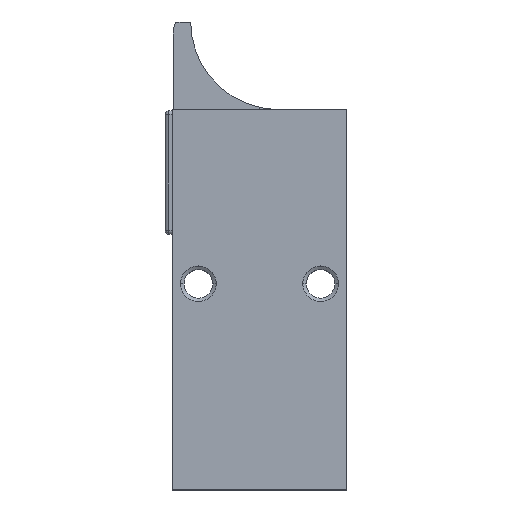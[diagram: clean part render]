
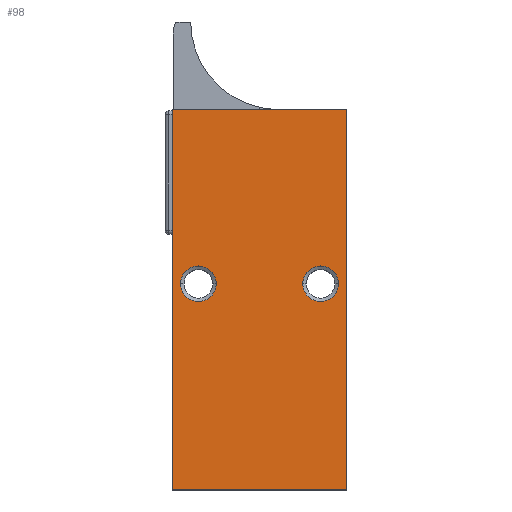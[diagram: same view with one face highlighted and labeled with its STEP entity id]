
A CAD part, top view. The second image highlights one B-rep face of the part: STEP entity #98.
In plain terms, the highlighted planar face has unit normal (0, 0, 1).
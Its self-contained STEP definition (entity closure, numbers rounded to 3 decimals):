
#98 = ADVANCED_FACE ( 'NONE', ( #2653, #2676, #2726 ), #2495, .F. ) ;
#126 = ORIENTED_EDGE ( 'NONE', *, *, #2920, .F. ) ;
#151 = CIRCLE ( 'NONE', #3379, 5.1 ) ;
#166 = VECTOR ( 'NONE', #2087, 1000. ) ;
#256 = CIRCLE ( 'NONE', #1008, 5.1 ) ;
#309 = CIRCLE ( 'NONE', #1001, 5.1 ) ;
#332 = VECTOR ( 'NONE', #2084, 1000. ) ;
#350 = LINE ( 'NONE', #2086, #166 ) ;
#418 = LINE ( 'NONE', #2070, #332 ) ;
#446 = VECTOR ( 'NONE', #2308, 1000. ) ;
#453 = LINE ( 'NONE', #2299, #446 ) ;
#490 = VERTEX_POINT ( 'NONE', #1756 ) ;
#533 = VERTEX_POINT ( 'NONE', #2482 ) ;
#556 = VERTEX_POINT ( 'NONE', #1559 ) ;
#587 = VERTEX_POINT ( 'NONE', #2398 ) ;
#870 = VERTEX_POINT ( 'NONE', #2400 ) ;
#878 = VERTEX_POINT ( 'NONE', #2407 ) ;
#912 = VERTEX_POINT ( 'NONE', #1469 ) ;
#968 = VERTEX_POINT ( 'NONE', #2444 ) ;
#1001 = AXIS2_PLACEMENT_3D ( 'NONE', #1802, #1813, #1816 ) ;
#1008 = AXIS2_PLACEMENT_3D ( 'NONE', #1923, #1904, #1780 ) ;
#1397 = LINE ( 'NONE', #2507, #3603 ) ;
#1469 = CARTESIAN_POINT ( 'NONE',  ( 0., 0., 40. ) ) ;
#1559 = CARTESIAN_POINT ( 'NONE',  ( 50., 109., 40. ) ) ;
#1586 = DIRECTION ( 'NONE',  ( 0., 0., -1. ) ) ;
#1688 = DIRECTION ( 'NONE',  ( 0., 0., 1. ) ) ;
#1698 = DIRECTION ( 'NONE',  ( -1., 0., 0. ) ) ;
#1756 = CARTESIAN_POINT ( 'NONE',  ( 12.6, 59., 40. ) ) ;
#1758 = CARTESIAN_POINT ( 'NONE',  ( 0., 109., 40. ) ) ;
#1780 = DIRECTION ( 'NONE',  ( 1., 0., 0. ) ) ;
#1802 = CARTESIAN_POINT ( 'NONE',  ( 7.5, 59., 40. ) ) ;
#1813 = DIRECTION ( 'NONE',  ( 0., 0., 1. ) ) ;
#1816 = DIRECTION ( 'NONE',  ( 1., 0., 0. ) ) ;
#1904 = DIRECTION ( 'NONE',  ( 0., 0., 1. ) ) ;
#1923 = CARTESIAN_POINT ( 'NONE',  ( 42.5, 59., 40. ) ) ;
#2070 = CARTESIAN_POINT ( 'NONE',  ( 0., 109., 40. ) ) ;
#2084 = DIRECTION ( 'NONE',  ( -1., 0., 0. ) ) ;
#2086 = CARTESIAN_POINT ( 'NONE',  ( 50., 0., 40. ) ) ;
#2087 = DIRECTION ( 'NONE',  ( 0., 1., 0. ) ) ;
#2161 = DIRECTION ( 'NONE',  ( 0., 0., 1. ) ) ;
#2162 = DIRECTION ( 'NONE',  ( 1., 0., 0. ) ) ;
#2204 = DIRECTION ( 'NONE',  ( 1., 0., 0. ) ) ;
#2282 = CARTESIAN_POINT ( 'NONE',  ( 7.5, 59., 40. ) ) ;
#2299 = CARTESIAN_POINT ( 'NONE',  ( 0., 0., 40. ) ) ;
#2308 = DIRECTION ( 'NONE',  ( 1., 0., 0. ) ) ;
#2398 = CARTESIAN_POINT ( 'NONE',  ( 50., 0., 40. ) ) ;
#2400 = CARTESIAN_POINT ( 'NONE',  ( 47.6, 59., 40. ) ) ;
#2407 = CARTESIAN_POINT ( 'NONE',  ( 0., 109., 40. ) ) ;
#2444 = CARTESIAN_POINT ( 'NONE',  ( 37.4, 59., 40. ) ) ;
#2479 = CARTESIAN_POINT ( 'NONE',  ( 42.5, 59., 40. ) ) ;
#2482 = CARTESIAN_POINT ( 'NONE',  ( 2.4, 59., 40. ) ) ;
#2495 = PLANE ( 'NONE',  #3326 ) ;
#2507 = CARTESIAN_POINT ( 'NONE',  ( 0., 0., 40. ) ) ;
#2518 = DIRECTION ( 'NONE',  ( 0., -1., 0. ) ) ;
#2653 = FACE_BOUND ( 'NONE', #3882, .T. ) ;
#2676 = FACE_BOUND ( 'NONE', #3866, .T. ) ;
#2726 = FACE_OUTER_BOUND ( 'NONE', #3813, .T. ) ;
#2920 = EDGE_CURVE ( 'NONE', #870, #968, #151, .T. ) ;
#2932 = EDGE_CURVE ( 'NONE', #878, #912, #1397, .T. ) ;
#2942 = EDGE_CURVE ( 'NONE', #912, #587, #453, .T. ) ;
#3002 = EDGE_CURVE ( 'NONE', #490, #533, #3552, .T. ) ;
#3145 = EDGE_CURVE ( 'NONE', #556, #878, #418, .T. ) ;
#3146 = EDGE_CURVE ( 'NONE', #587, #556, #350, .T. ) ;
#3183 = EDGE_CURVE ( 'NONE', #968, #870, #256, .T. ) ;
#3189 = EDGE_CURVE ( 'NONE', #533, #490, #309, .T. ) ;
#3326 = AXIS2_PLACEMENT_3D ( 'NONE', #1758, #1586, #1698 ) ;
#3353 = AXIS2_PLACEMENT_3D ( 'NONE', #2282, #2161, #2162 ) ;
#3379 = AXIS2_PLACEMENT_3D ( 'NONE', #2479, #1688, #2204 ) ;
#3453 = ORIENTED_EDGE ( 'NONE', *, *, #2942, .T. ) ;
#3479 = ORIENTED_EDGE ( 'NONE', *, *, #3002, .F. ) ;
#3480 = ORIENTED_EDGE ( 'NONE', *, *, #3146, .T. ) ;
#3487 = ORIENTED_EDGE ( 'NONE', *, *, #2932, .T. ) ;
#3501 = ORIENTED_EDGE ( 'NONE', *, *, #3189, .F. ) ;
#3514 = ORIENTED_EDGE ( 'NONE', *, *, #3145, .T. ) ;
#3537 = ORIENTED_EDGE ( 'NONE', *, *, #3183, .F. ) ;
#3552 = CIRCLE ( 'NONE', #3353, 5.1 ) ;
#3603 = VECTOR ( 'NONE', #2518, 1000. ) ;
#3813 = EDGE_LOOP ( 'NONE', ( #3487, #3453, #3480, #3514 ) ) ;
#3866 = EDGE_LOOP ( 'NONE', ( #3479, #3501 ) ) ;
#3882 = EDGE_LOOP ( 'NONE', ( #126, #3537 ) ) ;
